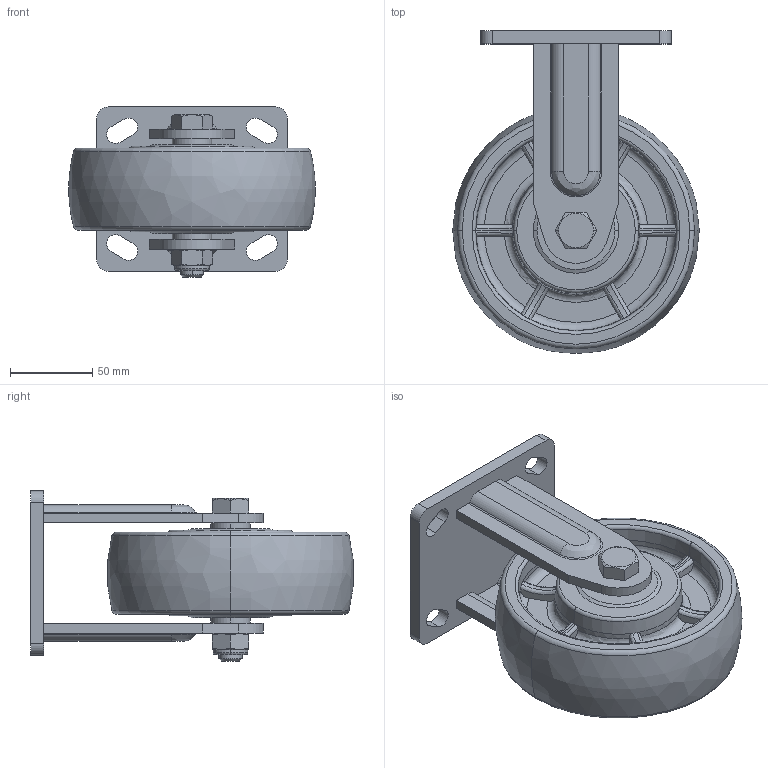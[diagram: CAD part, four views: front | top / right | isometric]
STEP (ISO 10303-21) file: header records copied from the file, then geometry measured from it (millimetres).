
FILE_DESCRIPTION((''),'2;1');
FILE_NAME('78106-706-26_ASM','2020-07-09T',('lenovo'),(''),'PRO/ENGINEER BY PARAMETRIC TECHNOLOGY CORPORATION, 2010280','PRO/ENGINEER BY PARAMETRIC TECHNOLOGY CORPORATION, 2010280','');
FILE_SCHEMA(('CONFIG_CONTROL_DESIGN'));
Length unit declared in the file: millimetre
Products named in the file (6): 780C00; 786C10; 780F-33-; 780-34; 766-26; 78106-706-26_ASM
Assembly tree (5 placements, depth 2):
  78106-706-26_ASM
    780C00
    786C10
    780F-33-
    780-34
    766-26
Bounding box: 150 x 196.17 x 103.5 mm (x, y, z)
Volume: 808998.4 mm3; surface area: 144436 mm2
Topology: 6 solids, 6 shells, 292 faces, 743 edges, 470 vertices
Faces by surface type: plane 93, cylinder 78, torus 60, bspline 37, cone 24
Entity records: 14264 total; most frequent: CARTESIAN_POINT 7359, ORIENTED_EDGE 1486, DIRECTION 1330, EDGE_CURVE 743, AXIS2_PLACEMENT_3D 538, VERTEX_POINT 470, EDGE_LOOP 315, FACE_OUTER_BOUND 292
